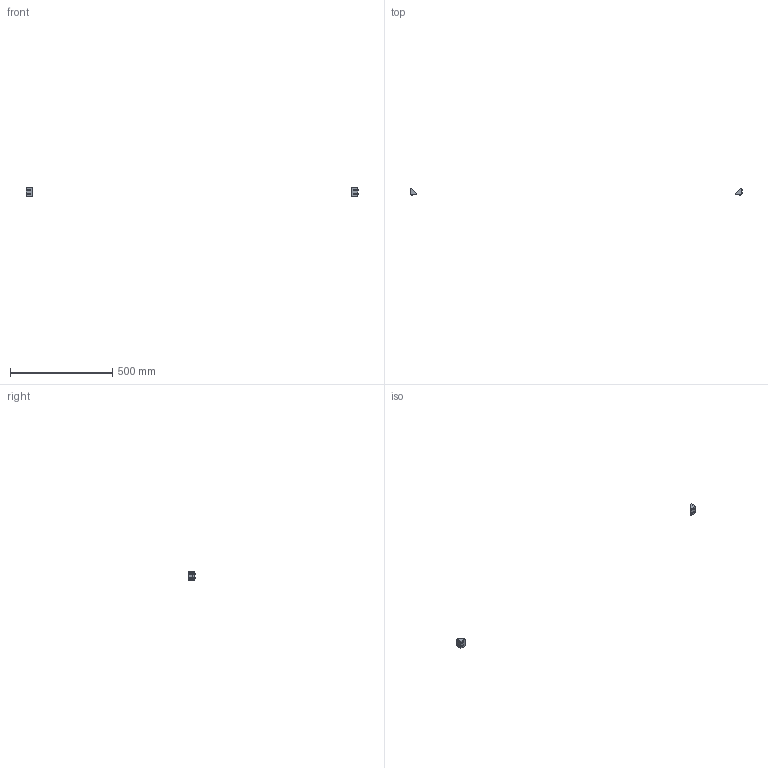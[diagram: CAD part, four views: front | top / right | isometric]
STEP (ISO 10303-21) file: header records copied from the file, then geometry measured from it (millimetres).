
FILE_DESCRIPTION(/* description */ (''),/* implementation_level */ '2;1');
FILE_NAME(/* name */ '3.frame-top#3.5#HBLFSD5',/* time_stamp */ '2014-12-01T20:12:16+01:00',/* author */ (''),/* organization */ (''),/* preprocessor_version */ 'ST-DEVELOPER v14',/* originating_system */ '',/* authorisation */ '');
FILE_SCHEMA (('AUTOMOTIVE_DESIGN'));
Length unit declared in the file: millimetre
Products named in the file (2): Document; angle bracket, semi, double
Assembly tree (1 placements, depth 2):
  Document
    angle bracket, semi, double
Bounding box: 1622 x 31 x 40 mm (x, y, z)
Volume: 21405.2 mm3; surface area: 13787.6 mm2
Topology: 2 solids, 2 shells, 242 faces, 678 edges, 452 vertices
Faces by surface type: plane 160, bspline 82
Entity records: 15703 total; most frequent: CARTESIAN_POINT 7096, B_SPLINE_CURVE_WITH_KNOTS 1382, ORIENTED_EDGE 1356, PCURVE 1356, DEFINITIONAL_REPRESENTATION 1356, SURFACE_CURVE 678, EDGE_CURVE 678, VERTEX_POINT 452
